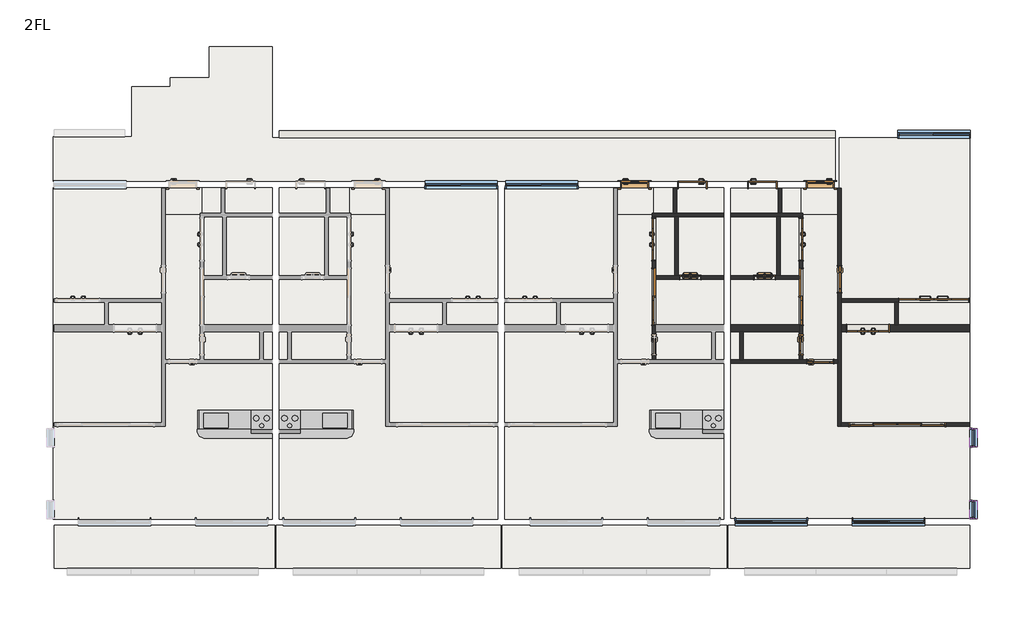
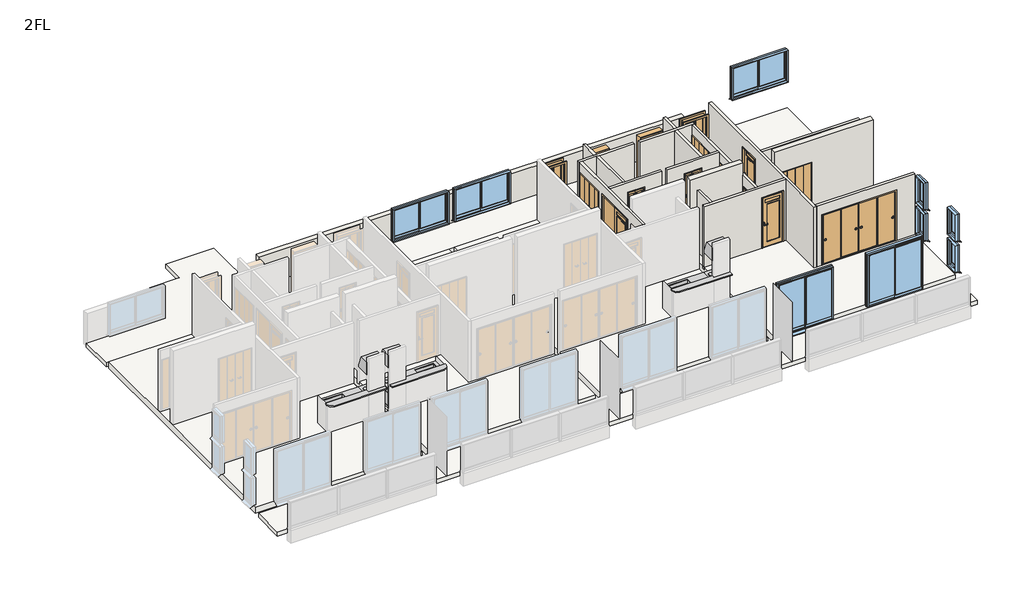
# One storey, part 3 of 3: 19 walls, 16 doors, 14 slabs, 9 windows, 3 flow terminals, 3 furniture elements.
"""IFC4 building model written with IfcOpenShell, lengths in millimetres."""

from ifc_helpers import new_model, si_unit, frame, origin, place, context, project, spatial, polyline, outline, extrude, faceted_brep, transform, mapped, element, save
from components import door_800x2000_a7d1584b, door_800x2000_010bfebf, w1200h2000_6a144d60, w1200h2000_99d19fb3, w1200h2000_ebe1d490, w1600h2000_4c3c234a, w1600h2000_ca690e72, w2000h2000_5dbb6d6a, w2800h2000_04aa64cd, w600h2000_6a266bef, w600h2000_94bb9c3c, w600h2000_8ea70a65, w800h2000_1d97c4d4, w800h2000_0ab7d42c, w800h2000_13e9f519, w800h2000_ccb03061, flow_terminal_5276808d, flow_terminal_b13850ba, furniture_3a0496f9, furniture_dadabe7c, window_2000x1200_fc91d1cf, window_2000x2000_f1ff98da, window_450x1000_1cddc73c

model = new_model("IFC4")

# Units and contexts
model_context = context("Model", 3, world=origin())
ifc_project = project(units=[si_unit("LENGTHUNIT", "METRE", prefix="MILLI")], contexts=[model_context])

# Site, building, storey
site = spatial("IfcSite", under=ifc_project)
building = spatial("IfcBuilding", under=site)
storey = spatial("IfcBuildingStorey", under=building, Name="2FL", Elevation=4000.0)

# Doors
placement = place(None, origin())
door_800x2000_shape = door_800x2000_a7d1584b(model_context)
element("IfcDoor", 1, ObjectType="片開き3 : 800x2000", at=placement, inside=storey, context=model_context, shape_type="MappedRepresentation", body=[
    mapped(door_800x2000_shape, transform((5521.2812754, -5726.3671638, 4000.0), x_axis=(1.0, 0.0, 0.0), y_axis=(0.0, 1.0, 0.0), z_axis=(0.0, 0.0, 1.0))),
])
door_800x2000_2_shape = door_800x2000_010bfebf(model_context)
element("IfcDoor", 2, ObjectType="片開き3 : 800x2000", at=placement, inside=storey, context=model_context, shape_type="MappedRepresentation", body=[
    mapped(door_800x2000_2_shape, transform((10821.2812754, -5726.3671638, 4000.0), x_axis=(-1.0, 0.0, 0.0), y_axis=(0.0, -1.0, 0.0), z_axis=(0.0, 0.0, 1.0))),
])
w1200h2000_shape = w1200h2000_6a144d60(model_context)
element("IfcDoor", 3, ObjectType="木製折戸 : w1200h2000", at=placement, inside=storey, context=model_context, shape_type="MappedRepresentation", body=[
    mapped(w1200h2000_shape, transform((6071.2812754, -7280.1171638, 4100.0), x_axis=(0.0, 1.0, 0.0), y_axis=(-1.0, 0.0, 0.0), z_axis=(0.0, 0.0, 1.0))),
])
w1200h2000_2_shape = w1200h2000_99d19fb3(model_context)
element("IfcDoor", 4, ObjectType="木製折戸 : w1200h2000", at=placement, inside=storey, context=model_context, shape_type="MappedRepresentation", body=[
    mapped(w1200h2000_2_shape, transform((10271.2812754, -7280.1171638, 4100.0), x_axis=(0.0, 1.0, 0.0), y_axis=(-1.0, 0.0, 0.0), z_axis=(0.0, 0.0, 1.0))),
])
w1200h2000_3_shape = w1200h2000_ebe1d490(model_context)
element("IfcDoor", 5, ObjectType="木製折戸 : w1200h2000", at=placement, inside=storey, context=model_context, shape_type="MappedRepresentation", body=[
    mapped(w1200h2000_3_shape, transform((12183.7812754, -9820.1171638, 4100.0), x_axis=(1.0, 0.0, 0.0), y_axis=(0.0, 1.0, 0.0), z_axis=(0.0, 0.0, 1.0))),
])
w1600h2000_shape = w1600h2000_4c3c234a(model_context)
element("IfcDoor", 6, ObjectType="片引戸CL2017 : w1600h2000", at=placement, inside=storey, context=model_context, shape_type="MappedRepresentation", body=[
    mapped(w1600h2000_shape, transform((6071.2812754, -8920.1171638, 4100.0), x_axis=(0.0, -1.0, 0.0), y_axis=(1.0, 0.0, 0.0), z_axis=(0.0, 0.0, 1.0))),
])
w1600h2000_2_shape = w1600h2000_ca690e72(model_context)
element("IfcDoor", 7, ObjectType="片引戸CL2017 : w1600h2000", at=placement, inside=storey, context=model_context, shape_type="MappedRepresentation", body=[
    mapped(w1600h2000_2_shape, transform((10271.2812754, -8920.1171638, 4100.0), x_axis=(0.0, -1.0, 0.0), y_axis=(1.0, 0.0, 0.0), z_axis=(0.0, 0.0, 1.0))),
])
w2000h2000_shape = w2000h2000_5dbb6d6a(model_context)
element("IfcDoor", 8, ObjectType="木製折戸 : w2000h2000", at=placement, inside=storey, context=model_context, shape_type="MappedRepresentation", body=[
    mapped(w2000h2000_shape, transform((14066.2812754, -9020.1171638, 4100.0), x_axis=(-1.0, 0.0, 0.0), y_axis=(0.0, -1.0, 0.0), z_axis=(0.0, 0.0, 1.0))),
])
w2800h2000_shape = w2800h2000_04aa64cd(model_context)
element("IfcDoor", 9, ObjectType="引違い 4 枚 2 溝_襖 : w2800h2000", at=placement, inside=storey, context=model_context, shape_type="MappedRepresentation", body=[
    mapped(w2800h2000_shape, transform((13026.8167793, -12570.1171638, 4100.0), x_axis=(1.0, 0.0, 0.0), y_axis=(0.0, 1.0, 0.0), z_axis=(0.0, 0.0, 1.0))),
])
w600h2000_shape = w600h2000_6a266bef(model_context)
element("IfcDoor", 10, ObjectType="浴室折戸 : w600h2000", at=placement, inside=storey, context=model_context, shape_type="MappedRepresentation", body=[
    mapped(w600h2000_shape, transform((7111.2812754, -8370.1171638, 4100.0), x_axis=(1.0, 0.0, 0.0), y_axis=(0.0, 1.0, 0.0), z_axis=(0.0, 0.0, 1.0))),
])
w600h2000_2_shape = w600h2000_94bb9c3c(model_context)
element("IfcDoor", 11, ObjectType="浴室折戸 : w600h2000", at=placement, inside=storey, context=model_context, shape_type="MappedRepresentation", body=[
    mapped(w600h2000_2_shape, transform((9231.2812754, -8370.1171638, 4100.0), x_axis=(-1.0, 0.0, 0.0), y_axis=(0.0, -1.0, 0.0), z_axis=(0.0, 0.0, 1.0))),
])
w600h2000_3_shape = w600h2000_8ea70a65(model_context)
element("IfcDoor", 12, ObjectType="片開戸CL2058 : w600h2000", at=placement, inside=storey, context=model_context, shape_type="MappedRepresentation", body=[
    mapped(w600h2000_3_shape, transform((10271.2812754, -10295.1171638, 4100.0), x_axis=(0.0, -1.0, 0.0), y_axis=(1.0, 0.0, 0.0), z_axis=(0.0, 0.0, 1.0))),
])
w800h2000_shape = w800h2000_1d97c4d4(model_context)
element("IfcDoor", 13, ObjectType="片開 : w800h2000", at=placement, inside=storey, context=model_context, shape_type="MappedRepresentation", body=[
    mapped(w800h2000_shape, transform((7171.2812754, -5726.3671638, 4000.0), x_axis=(-1.0, 0.0, 0.0), y_axis=(0.0, -1.0, 0.0), z_axis=(0.0, 0.0, 1.0))),
])
w800h2000_2_shape = w800h2000_0ab7d42c(model_context)
element("IfcDoor", 14, ObjectType="片開 : w800h2000", at=placement, inside=storey, context=model_context, shape_type="MappedRepresentation", body=[
    mapped(w800h2000_2_shape, transform((9171.2812754, -5726.3671638, 4000.0), x_axis=(1.0, 0.0, 0.0), y_axis=(0.0, 1.0, 0.0), z_axis=(0.0, 0.0, 1.0))),
])
w800h2000_3_shape = w800h2000_13e9f519(model_context)
element("IfcDoor", 15, ObjectType="片開戸CL2058 : w800h2000", at=placement, inside=storey, context=model_context, shape_type="MappedRepresentation", body=[
    mapped(w800h2000_3_shape, transform((10821.2812754, -10770.1171638, 4100.0), x_axis=(1.0, 0.0, 0.0), y_axis=(0.0, 1.0, 0.0), z_axis=(0.0, 0.0, 1.0))),
])
w800h2000_4_shape = w800h2000_ccb03061(model_context)
element("IfcDoor", 16, ObjectType="片開戸CL2058 : w800h2000", at=placement, inside=storey, context=model_context, shape_type="MappedRepresentation", body=[
    mapped(w800h2000_4_shape, transform((11371.2812754, -8420.1171638, 4100.0), x_axis=(0.0, -1.0, 0.0), y_axis=(1.0, 0.0, 0.0), z_axis=(0.0, 0.0, 1.0))),
])

# Flow terminals
flow_terminal_shape = flow_terminal_5276808d(model_context)
element("IfcFlowTerminal", 17, ObjectType="システムキッチンIH : システムキッチンIH", at=placement, inside=storey, context=model_context, shape_type="MappedRepresentation", body=[
    mapped(flow_terminal_shape, transform((-4828.7187246, -12720.1171638, 4200.0), x_axis=(1.0, 0.0, 0.0), y_axis=(0.0, 1.0, 0.0), z_axis=(0.0, 0.0, 1.0))),
])
element("IfcFlowTerminal", 18, ObjectType="システムキッチンIH : システムキッチンIH", at=placement, inside=storey, context=model_context, shape_type="MappedRepresentation", body=[
    mapped(flow_terminal_shape, transform((8071.2812754, -12720.1171638, 4200.0), x_axis=(1.0, 0.0, 0.0), y_axis=(0.0, 1.0, 0.0), z_axis=(0.0, 0.0, 1.0))),
])
flow_terminal_2_shape = flow_terminal_b13850ba(model_context)
element("IfcFlowTerminal", 19, ObjectType="システムキッチンIH : システムキッチンIH", at=placement, inside=storey, context=model_context, shape_type="MappedRepresentation", body=[
    mapped(flow_terminal_2_shape, transform((-4628.7187246, -12720.1171638, 4200.0), x_axis=(-1.0, 0.0, 0.0), y_axis=(0.0, -1.0, 0.0), z_axis=(0.0, 0.0, 1.0))),
])

# Furniture
furniture_shape = furniture_3a0496f9(model_context)
element("IfcFurniture", 20, ObjectType="キッチンカウンター : キッチンカウンター", at=placement, inside=storey, context=model_context, shape_type="MappedRepresentation", body=[
    mapped(furniture_shape, transform((-4628.7187246, -12820.1171638, 4100.0), x_axis=(-1.0, 0.0, 0.0), y_axis=(0.0, -1.0, 0.0), z_axis=(0.0, 0.0, 1.0))),
])
furniture_2_shape = furniture_dadabe7c(model_context)
element("IfcFurniture", 21, ObjectType="キッチンカウンター : キッチンカウンター", at=placement, inside=storey, context=model_context, shape_type="MappedRepresentation", body=[
    mapped(furniture_2_shape, transform((-4828.7187246, -12820.1171638, 4100.0), x_axis=(1.0, 0.0, 0.0), y_axis=(0.0, 1.0, 0.0), z_axis=(0.0, 0.0, 1.0))),
])
element("IfcFurniture", 22, ObjectType="キッチンカウンター : キッチンカウンター", at=placement, inside=storey, context=model_context, shape_type="MappedRepresentation", body=[
    mapped(furniture_2_shape, transform((8071.2812754, -12820.1171638, 4100.0), x_axis=(1.0, 0.0, 0.0), y_axis=(0.0, 1.0, 0.0), z_axis=(0.0, 0.0, 1.0))),
])

# Slabs
element("IfcSlab", 23, ObjectType="RC150＋100", at=placement, inside=storey, context=model_context, shape_type="SweptSolid", body=[
    extrude(outline(polyline([(-4828.7187246, -15270.1171638), (-11078.7187246, -15270.1171638), (-11078.7187246, -5800.1171638), (-7928.7187246, -5800.1171638), (-7928.7187246, -6580.1171638), (-6828.7187246, -6580.1171638), (-6828.7187246, -5800.1171638), (-4828.7187246, -5800.1171638), (-4828.7187246, -6580.1171638), (-6188.7187246, -6580.1171638), (-6188.7187246, -8370.1171638), (-4828.7187246, -8370.1171638), (-4828.7187246, -15270.1171638)])), frame((0.0, 0.0, 3850.0), z_axis=(0.0, 0.0, 1.0), x_axis=(1.0, 0.0, 0.0)), (0.0, 0.0, 1.0), 250.0),
])
element("IfcSlab", 24, ObjectType="RC150＋100", at=placement, inside=storey, context=model_context, shape_type="SweptSolid", body=[
    extrude(outline(polyline([(-4628.7187246, -15270.1171638), (-4628.7187246, -8370.1171638), (-3268.7187246, -8370.1171638), (-3268.7187246, -6580.1171638), (-4628.7187246, -6580.1171638), (-4628.7187246, -5800.1171638), (-2628.7187246, -5800.1171638), (-2628.7187246, -6580.1171638), (-1528.7187246, -6580.1171638), (-1528.7187246, -5800.1171638), (1621.2812754, -5800.1171638), (1621.2812754, -15270.1171638), (-4628.7187246, -15270.1171638)])), frame((0.0, 0.0, 3850.0), z_axis=(0.0, 0.0, 1.0), x_axis=(1.0, 0.0, 0.0)), (0.0, 0.0, 1.0), 250.0),
])
element("IfcSlab", 25, ObjectType="RC150＋100", at=placement, inside=storey, context=model_context, shape_type="SweptSolid", body=[
    extrude(outline(polyline([(8071.2812754, -15270.1171638), (1821.2812754, -15270.1171638), (1821.2812754, -5800.1171638), (4971.2812754, -5800.1171638), (4971.2812754, -6580.1171638), (6071.2812754, -6580.1171638), (6071.2812754, -5800.1171638), (8071.2812754, -5800.1171638), (8071.2812754, -6580.1171638), (6711.2812754, -6580.1171638), (6711.2812754, -8370.1171638), (8071.2812754, -8370.1171638), (8071.2812754, -15270.1171638)])), frame((0.0, 0.0, 3850.0), z_axis=(0.0, 0.0, 1.0), x_axis=(1.0, 0.0, 0.0)), (0.0, 0.0, 1.0), 250.0),
])
element("IfcSlab", 26, ObjectType="RC150＋100", at=placement, inside=storey, context=model_context, shape_type="SweptSolid", body=[
    extrude(outline(polyline([(8271.2812754, -15243.8671638), (8271.2812754, -8370.1171638), (9631.2812754, -8370.1171638), (9631.2812754, -6580.1171638), (8271.2812754, -6580.1171638), (8271.2812754, -5826.3671638), (10271.2812754, -5826.3671638), (10271.2812754, -6580.1171638), (11371.2812754, -6580.1171638), (11371.2812754, -4376.3671638), (15095.0312754, -4376.3671638), (15095.0312754, -15243.8671638), (8271.2812754, -15243.8671638)])), frame((0.0, 0.0, 3850.0), z_axis=(0.0, 0.0, 1.0), x_axis=(1.0, 0.0, 0.0)), (0.0, 0.0, 1.0), 250.0),
])
element("IfcSlab", 27, ObjectType="RC150", at=placement, inside=storey, context=model_context, shape_type="SweptSolid", body=[
    extrude(outline(polyline([(-4828.7187246, -8370.1171638), (-6188.7187246, -8370.1171638), (-6188.7187246, -6580.1171638), (-4828.7187246, -6580.1171638), (-4828.7187246, -8370.1171638)])), frame((0.0, 0.0, 3850.0), z_axis=(0.0, 0.0, 1.0), x_axis=(1.0, 0.0, 0.0)), (0.0, 0.0, 1.0), 150.0),
])
element("IfcSlab", 28, ObjectType="RC150", at=placement, inside=storey, context=model_context, shape_type="SweptSolid", body=[
    extrude(outline(polyline([(-6828.7187246, -6580.1171638), (-7928.7187246, -6580.1171638), (-7928.7187246, -5800.1171638), (-6828.7187246, -5800.1171638), (-6828.7187246, -6580.1171638)])), frame((0.0, 0.0, 3800.0), z_axis=(0.0, 0.0, 1.0), x_axis=(1.0, 0.0, 0.0)), (0.0, 0.0, 1.0), 150.0),
])
element("IfcSlab", 29, ObjectType="RC150", at=placement, inside=storey, context=model_context, shape_type="SweptSolid", body=[
    extrude(outline(polyline([(-4628.7187246, -8370.1171638), (-4628.7187246, -6580.1171638), (-3268.7187246, -6580.1171638), (-3268.7187246, -8370.1171638), (-4628.7187246, -8370.1171638)])), frame((0.0, 0.0, 3850.0), z_axis=(0.0, 0.0, 1.0), x_axis=(1.0, 0.0, 0.0)), (0.0, 0.0, 1.0), 150.0),
])
element("IfcSlab", 30, ObjectType="RC150", at=placement, inside=storey, context=model_context, shape_type="SweptSolid", body=[
    extrude(outline(polyline([(-2628.7187246, -6580.1171638), (-2628.7187246, -5800.1171638), (-1528.7187246, -5800.1171638), (-1528.7187246, -6580.1171638), (-2628.7187246, -6580.1171638)])), frame((0.0, 0.0, 3800.0), z_axis=(0.0, 0.0, 1.0), x_axis=(1.0, 0.0, 0.0)), (0.0, 0.0, 1.0), 150.0),
])
element("IfcSlab", 31, ObjectType="RC150", at=placement, inside=storey, context=model_context, shape_type="SweptSolid", body=[
    extrude(outline(polyline([(8071.2812754, -8370.1171638), (6711.2812754, -8370.1171638), (6711.2812754, -6580.1171638), (8071.2812754, -6580.1171638), (8071.2812754, -8370.1171638)])), frame((0.0, 0.0, 3850.0), z_axis=(0.0, 0.0, 1.0), x_axis=(1.0, 0.0, 0.0)), (0.0, 0.0, 1.0), 150.0),
])
element("IfcSlab", 32, ObjectType="RC150", at=placement, inside=storey, context=model_context, shape_type="SweptSolid", body=[
    extrude(outline(polyline([(6071.2812754, -6580.1171638), (4971.2812754, -6580.1171638), (4971.2812754, -5800.1171638), (6071.2812754, -5800.1171638), (6071.2812754, -6580.1171638)])), frame((0.0, 0.0, 3800.0), z_axis=(0.0, 0.0, 1.0), x_axis=(1.0, 0.0, 0.0)), (0.0, 0.0, 1.0), 150.0),
])
element("IfcSlab", 33, ObjectType="RC150", at=placement, inside=storey, context=model_context, shape_type="SweptSolid", body=[
    extrude(outline(polyline([(8271.2812754, -8370.1171638), (8271.2812754, -6580.1171638), (9631.2812754, -6580.1171638), (9631.2812754, -8370.1171638), (8271.2812754, -8370.1171638)])), frame((0.0, 0.0, 3850.0), z_axis=(0.0, 0.0, 1.0), x_axis=(1.0, 0.0, 0.0)), (0.0, 0.0, 1.0), 150.0),
])
element("IfcSlab", 34, ObjectType="RC150", at=placement, inside=storey, context=model_context, shape_type="SweptSolid", body=[
    extrude(outline(polyline([(10271.2812754, -6580.1171638), (10271.2812754, -5826.3671638), (11371.2812754, -5826.3671638), (11371.2812754, -6580.1171638), (10271.2812754, -6580.1171638)])), frame((0.0, 0.0, 3800.0), z_axis=(0.0, 0.0, 1.0), x_axis=(1.0, 0.0, 0.0)), (0.0, 0.0, 1.0), 150.0),
])
element("IfcSlab", 35, ObjectType="RC150", at=placement, inside=storey, context=model_context, shape_type="SweptSolid", body=[
    extrude(outline(polyline([(-8828.7187246, -4350.1171638), (-8828.7187246, -2920.1171638), (-7728.7187246, -2920.1171638), (-7728.7187246, -2660.1171638), (-6628.7187246, -2660.1171638), (-6628.7187246, -1775.1171638), (-4828.7187246, -1775.1171638), (-4828.7187246, -4376.3671638), (11247.5312754, -4376.3671638), (11247.5312754, -5626.3671638), (-11078.7187246, -5626.3671638), (-11078.7187246, -4350.1171638), (-8828.7187246, -4350.1171638)])), frame((0.0, 0.0, 3800.0), z_axis=(0.0, 0.0, 1.0), x_axis=(1.0, 0.0, 0.0)), (0.0, 0.0, 1.0), 150.0),
])
element("IfcSlab", 36, ObjectType="RC150", at=placement, inside=storey, context=model_context, shape_type="SweptSolid", body=[
    extrude(outline(polyline([(15095.0312754, -15443.8671638), (15095.0312754, -16670.1171638), (-11052.4687246, -16670.1171638), (-11052.4687246, -15443.8671638), (15095.0312754, -15443.8671638)])), frame((0.0, 0.0, 3800.0), z_axis=(0.0, 0.0, 1.0), x_axis=(1.0, 0.0, 0.0)), (0.0, 0.0, 1.0), 150.0),
])

# Walls
element("IfcWall", 37, ObjectType="(R)RC200", at=placement, inside=storey, context=model_context, shape_type="Brep", body=[
    faceted_brep([(15095.0312754, -9720.1171638, 4000.0), (13046.2812754, -9720.1171638, 4000.0), (12946.2812754, -9720.1171638, 4000.0), (11421.2812754, -9720.1171638, 4000.0), (11421.2812754, -9720.1171638, 7000.0), (15095.0312754, -9720.1171638, 7000.0), (12803.7812754, -9720.1171638, 6120.0), (11563.7812754, -9720.1171638, 6120.0), (11563.7812754, -9720.1171638, 4100.0), (12803.7812754, -9720.1171638, 4100.0), (15095.0312754, -9920.1171638, 4000.0), (15095.0312754, -9920.1171638, 7000.0), (11421.2812754, -9920.1171638, 7000.0), (11421.2812754, -9920.1171638, 4000.0), (12803.7812754, -9920.1171638, 6120.0), (12803.7812754, -9920.1171638, 4100.0), (11563.7812754, -9920.1171638, 4100.0), (11563.7812754, -9920.1171638, 6120.0)], [[[0, 1, 2, 3, 4, 5], [6, 7, 8, 9]], [[10, 11, 12, 13], [14, 15, 16, 17]], [[3, 2, 1, 0, 10, 13]], [[5, 4, 12, 11]], [[4, 3, 13, 12]], [[15, 14, 6, 9]], [[16, 15, 9, 8]], [[17, 16, 8, 7]], [[14, 17, 7, 6]], [[0, 5, 11, 10]]]),
])
element("IfcWall", 38, ObjectType="(R)RC200", at=placement, inside=storey, context=model_context, shape_type="Brep", body=[
    faceted_brep([(10221.2812754, -9720.1171638, 4000.0), (8271.2812754, -9720.1171638, 4000.0), (8271.2812754, -9720.1171638, 7000.0), (10221.2812754, -9720.1171638, 7000.0), (10221.2812754, -9920.1171638, 4000.0), (10221.2812754, -9920.1171638, 7000.0), (8271.2812754, -9920.1171638, 7000.0), (8271.2812754, -9920.1171638, 4000.0), (8521.2812754, -9920.1171638, 4000.0), (8621.2812754, -9920.1171638, 4000.0)], [[[0, 1, 2, 3]], [[4, 5, 6, 7, 8, 9]], [[1, 0, 4, 9, 8, 7]], [[3, 2, 6, 5]], [[0, 3, 5, 4]], [[2, 1, 7, 6]]]),
])
element("IfcWall", 39, ObjectType="(R)RC200", at=placement, inside=storey, context=model_context, shape_type="Brep", body=[
    faceted_brep([(-4628.7187246, -4376.3671638, 5100.0), (-4628.7187246, -4376.3671638, 3800.0), (-1628.7187246, -4376.3671638, 3800.0), (11247.5312754, -4376.3671638, 3800.0), (11247.5312754, -4376.3671638, 5100.0), (-4628.7187246, -4176.3671638, 3800.0), (-4628.7187246, -4176.3671638, 5100.0), (11247.5312754, -4176.3671638, 5100.0), (11247.5312754, -4176.3671638, 3800.0), (-1628.7187246, -4176.3671638, 3800.0)], [[[0, 1, 2, 3, 4]], [[5, 6, 7, 8, 9]], [[3, 2, 1, 5, 9, 8]], [[0, 4, 7, 6]], [[4, 3, 8, 7]], [[0, 6, 5, 1]]]),
])
element("IfcWall", 40, ObjectType="(L1)LGS100", at=placement, inside=storey, context=model_context, shape_type="Brep", body=[
    faceted_brep([(6121.2812754, -8420.1171638, 4000.0), (8071.2812754, -8420.1171638, 4000.0), (8071.2812754, -8420.1171638, 6500.0), (6121.2812754, -8420.1171638, 6500.0), (7431.2812754, -8420.1171638, 6120.0), (7431.2812754, -8420.1171638, 4100.0), (6791.2812754, -8420.1171638, 4100.0), (6791.2812754, -8420.1171638, 6120.0), (6121.2812754, -8320.1171638, 4000.0), (6121.2812754, -8320.1171638, 6500.0), (6661.2812754, -8320.1171638, 6500.0), (6761.2812754, -8320.1171638, 6500.0), (8071.2812754, -8320.1171638, 6500.0), (8071.2812754, -8320.1171638, 4000.0), (6761.2812754, -8320.1171638, 4000.0), (6661.2812754, -8320.1171638, 4000.0), (7431.2812754, -8320.1171638, 6120.0), (6791.2812754, -8320.1171638, 6120.0), (6791.2812754, -8320.1171638, 4100.0), (7431.2812754, -8320.1171638, 4100.0)], [[[0, 1, 2, 3], [4, 5, 6, 7]], [[8, 9, 10, 11, 12, 13, 14, 15], [16, 17, 18, 19]], [[1, 0, 8, 15, 14, 13]], [[3, 2, 12, 11, 10, 9]], [[0, 3, 9, 8]], [[5, 4, 16, 19]], [[6, 5, 19, 18]], [[7, 6, 18, 17]], [[4, 7, 17, 16]], [[2, 1, 13, 12]]]),
])
element("IfcWall", 41, ObjectType="(L1)LGS100", at=placement, inside=storey, context=model_context, shape_type="Brep", body=[
    faceted_brep([(6121.2812754, -10720.1171638, 4000.0), (6121.2812754, -9920.1171638, 4000.0), (6121.2812754, -9720.1171638, 4000.0), (6121.2812754, -8420.1171638, 4000.0), (6121.2812754, -8320.1171638, 4000.0), (6121.2812754, -6630.1171638, 4000.0), (6121.2812754, -6630.1171638, 6500.0), (6121.2812754, -8320.1171638, 6500.0), (6121.2812754, -8420.1171638, 6500.0), (6121.2812754, -10720.1171638, 6500.0), (6121.2812754, -10595.1171638, 4100.0), (6121.2812754, -10595.1171638, 6100.0), (6121.2812754, -9995.1171638, 6100.0), (6121.2812754, -9995.1171638, 4100.0), (6121.2812754, -6660.1171638, 4100.0), (6121.2812754, -7900.1171638, 4100.0), (6121.2812754, -7900.1171638, 6120.0), (6121.2812754, -6660.1171638, 6120.0), (6121.2812754, -9745.1171638, 4100.0), (6121.2812754, -9745.1171638, 6140.0), (6121.2812754, -8095.1171638, 6140.0), (6121.2812754, -8095.1171638, 4100.0), (6021.2812754, -6630.1171638, 4000.0), (6021.2812754, -10720.1171638, 4000.0), (6021.2812754, -10720.1171638, 6500.0), (6021.2812754, -6630.1171638, 6500.0), (6021.2812754, -10595.1171638, 6100.0), (6021.2812754, -10595.1171638, 4100.0), (6021.2812754, -9995.1171638, 4100.0), (6021.2812754, -9995.1171638, 6100.0), (6021.2812754, -7900.1171638, 4100.0), (6021.2812754, -6660.1171638, 4100.0), (6021.2812754, -6660.1171638, 6120.0), (6021.2812754, -7900.1171638, 6120.0), (6021.2812754, -9745.1171638, 4100.0), (6021.2812754, -8095.1171638, 4100.0), (6021.2812754, -8095.1171638, 6140.0), (6021.2812754, -9745.1171638, 6140.0)], [[[0, 1, 2, 3, 4, 5, 6, 7, 8, 9], [10, 11, 12, 13], [14, 15, 16, 17], [18, 19, 20, 21]], [[22, 23, 24, 25], [26, 27, 28, 29], [30, 31, 32, 33], [34, 35, 36, 37]], [[5, 4, 3, 2, 1, 0, 23, 22]], [[9, 8, 7, 6, 25, 24]], [[0, 9, 24, 23]], [[11, 10, 27, 26]], [[12, 11, 26, 29]], [[13, 12, 29, 28]], [[10, 13, 28, 27]], [[14, 31, 30, 15]], [[15, 30, 33, 16]], [[16, 33, 32, 17]], [[19, 18, 34, 37]], [[20, 19, 37, 36]], [[21, 20, 36, 35]], [[18, 21, 35, 34]], [[31, 14, 17, 32]], [[6, 5, 22, 25]]]),
])
element("IfcWall", 42, ObjectType="(L1)LGS100", at=placement, inside=storey, context=model_context, shape_type="Brep", body=[
    faceted_brep([(6021.2812754, -6630.1171638, 4000.0), (6121.2812754, -6630.1171638, 4000.0), (6661.2812754, -6630.1171638, 4000.0), (6761.2812754, -6630.1171638, 4000.0), (8071.2812754, -6630.1171638, 4000.0), (8071.2812754, -6630.1171638, 6500.0), (6761.2812754, -6630.1171638, 6500.0), (6661.2812754, -6630.1171638, 6500.0), (6121.2812754, -6630.1171638, 6500.0), (6021.2812754, -6630.1171638, 6500.0), (6021.2812754, -6530.1171638, 4000.0), (6021.2812754, -6530.1171638, 6500.0), (6621.2812754, -6530.1171638, 6500.0), (6721.2812754, -6530.1171638, 6500.0), (8071.2812754, -6530.1171638, 6500.0), (8071.2812754, -6530.1171638, 4000.0), (6721.2812754, -6530.1171638, 4000.0), (6621.2812754, -6530.1171638, 4000.0)], [[[0, 1, 2, 3, 4, 5, 6, 7, 8, 9]], [[10, 11, 12, 13, 14, 15, 16, 17]], [[4, 3, 2, 1, 0, 10, 17, 16, 15]], [[9, 8, 7, 6, 5, 14, 13, 12, 11]], [[0, 9, 11, 10]], [[5, 4, 15, 14]]]),
])
element("IfcWall", 43, ObjectType="(L1)LGS100", at=placement, inside=storey, context=model_context, shape_type="SweptSolid", body=[
    extrude(outline(polyline([(6721.2812754, -5826.3671638), (6721.2812754, -6530.1171638), (6621.2812754, -6530.1171638), (6621.2812754, -5826.3671638), (6721.2812754, -5826.3671638)])), frame((0.0, 0.0, 4000.0), z_axis=(0.0, 0.0, 1.0), x_axis=(1.0, 0.0, 0.0)), (0.0, 0.0, 1.0), 2500.0),
])
element("IfcWall", 44, ObjectType="(L1)LGS100", at=placement, inside=storey, context=model_context, shape_type="SweptSolid", body=[
    extrude(outline(polyline([(6761.2812754, -6630.1171638), (6761.2812754, -8320.1171638), (6661.2812754, -8320.1171638), (6661.2812754, -6630.1171638), (6761.2812754, -6630.1171638)])), frame((0.0, 0.0, 4000.0), z_axis=(0.0, 0.0, 1.0), x_axis=(1.0, 0.0, 0.0)), (0.0, 0.0, 1.0), 2500.0),
])
element("IfcWall", 45, ObjectType="(L1)LGS100", at=placement, inside=storey, context=model_context, shape_type="Brep", body=[
    faceted_brep([(15095.0312754, -8970.1171638, 4000.0), (11421.2812754, -8970.1171638, 4000.0), (11421.2812754, -8970.1171638, 6500.0), (15095.0312754, -8970.1171638, 6500.0), (13046.2812754, -8970.1171638, 6120.0), (13046.2812754, -8970.1171638, 4100.0), (15086.2812754, -8970.1171638, 4100.0), (15086.2812754, -8970.1171638, 6120.0), (11421.2812754, -9070.1171638, 4000.0), (12946.2812754, -9070.1171638, 4000.0), (13046.2812754, -9070.1171638, 4000.0), (15095.0312754, -9070.1171638, 4000.0), (15095.0312754, -9070.1171638, 6500.0), (13046.2812754, -9070.1171638, 6500.0), (12946.2812754, -9070.1171638, 6500.0), (11421.2812754, -9070.1171638, 6500.0), (13046.2812754, -9070.1171638, 4100.0), (13046.2812754, -9070.1171638, 6120.0), (15086.2812754, -9070.1171638, 6120.0), (15086.2812754, -9070.1171638, 4100.0)], [[[0, 1, 2, 3], [4, 5, 6, 7]], [[8, 9, 10, 11, 12, 13, 14, 15], [16, 17, 18, 19]], [[1, 0, 11, 10, 9, 8]], [[3, 2, 15, 14, 13, 12]], [[2, 1, 8, 15]], [[4, 17, 16, 5]], [[5, 16, 19, 6]], [[17, 4, 7, 18]], [[18, 7, 6, 19]], [[0, 3, 12, 11]]]),
])
element("IfcWall", 46, ObjectType="(L1)LGS100", at=placement, inside=storey, context=model_context, shape_type="Brep", body=[
    faceted_brep([(13046.2812754, -9720.1171638, 4000.0), (13046.2812754, -9070.1171638, 4000.0), (13046.2812754, -9070.1171638, 4100.0), (13046.2812754, -9070.1171638, 6120.0), (13046.2812754, -9070.1171638, 6500.0), (13046.2812754, -9720.1171638, 6500.0), (12946.2812754, -9720.1171638, 4000.0), (12946.2812754, -9720.1171638, 6500.0), (12946.2812754, -9070.1171638, 6500.0), (12946.2812754, -9070.1171638, 4000.0)], [[[0, 1, 2, 3, 4, 5]], [[6, 7, 8, 9]], [[1, 0, 6, 9]], [[5, 4, 8, 7]], [[0, 5, 7, 6]], [[4, 3, 2, 1, 9, 8]]]),
])
element("IfcWall", 47, ObjectType="(L1)LGS100", at=placement, inside=storey, context=model_context, shape_type="Brep", body=[
    faceted_brep([(11421.2812754, -12620.1171638, 4000.0), (11421.2812754, -12520.1171638, 4000.0), (11421.2812754, -9920.1171638, 4000.0), (11421.2812754, -9720.1171638, 4000.0), (11421.2812754, -9070.1171638, 4000.0), (11421.2812754, -8970.1171638, 4000.0), (11421.2812754, -5826.3671638, 4000.0), (11421.2812754, -5826.3671638, 6500.0), (11421.2812754, -8970.1171638, 6500.0), (11421.2812754, -9070.1171638, 6500.0), (11421.2812754, -12520.1171638, 6500.0), (11421.2812754, -12620.1171638, 6500.0), (11421.2812754, -8820.1171638, 4100.0), (11421.2812754, -8820.1171638, 6100.0), (11421.2812754, -8020.1171638, 6100.0), (11421.2812754, -8020.1171638, 4100.0), (11321.2812754, -12620.1171638, 4000.0), (11321.2812754, -12620.1171638, 6500.0), (11321.2812754, -10820.1171638, 6500.0), (11321.2812754, -10720.1171638, 6500.0), (11321.2812754, -5826.3671638, 6500.0), (11321.2812754, -5826.3671638, 4000.0), (11321.2812754, -10720.1171638, 4000.0), (11321.2812754, -10820.1171638, 4000.0), (11321.2812754, -8820.1171638, 4100.0), (11321.2812754, -8020.1171638, 4100.0), (11321.2812754, -8020.1171638, 6100.0), (11321.2812754, -8820.1171638, 6100.0)], [[[0, 1, 2, 3, 4, 5, 6, 7, 8, 9, 10, 11], [12, 13, 14, 15]], [[16, 17, 18, 19, 20, 21, 22, 23], [24, 25, 26, 27]], [[6, 5, 4, 3, 2, 1, 0, 16, 23, 22, 21]], [[11, 10, 9, 8, 7, 20, 19, 18, 17]], [[0, 11, 17, 16]], [[13, 12, 24, 27]], [[14, 13, 27, 26]], [[15, 14, 26, 25]], [[12, 15, 25, 24]], [[7, 6, 21, 20]]]),
])
element("IfcWall", 48, ObjectType="(L1)LGS100", at=placement, inside=storey, context=model_context, shape_type="Brep", body=[
    faceted_brep([(10221.2812754, -8320.1171638, 4000.0), (9681.2812754, -8320.1171638, 4000.0), (9581.2812754, -8320.1171638, 4000.0), (8271.2812754, -8320.1171638, 4000.0), (8271.2812754, -8320.1171638, 6500.0), (9581.2812754, -8320.1171638, 6500.0), (9681.2812754, -8320.1171638, 6500.0), (10221.2812754, -8320.1171638, 6500.0), (8911.2812754, -8320.1171638, 6120.0), (8911.2812754, -8320.1171638, 4100.0), (9551.2812754, -8320.1171638, 4100.0), (9551.2812754, -8320.1171638, 6120.0), (10221.2812754, -8420.1171638, 4000.0), (10221.2812754, -8420.1171638, 6500.0), (8271.2812754, -8420.1171638, 6500.0), (8271.2812754, -8420.1171638, 4000.0), (8911.2812754, -8420.1171638, 6120.0), (9551.2812754, -8420.1171638, 6120.0), (9551.2812754, -8420.1171638, 4100.0), (8911.2812754, -8420.1171638, 4100.0)], [[[0, 1, 2, 3, 4, 5, 6, 7], [8, 9, 10, 11]], [[12, 13, 14, 15], [16, 17, 18, 19]], [[3, 2, 1, 0, 12, 15]], [[7, 6, 5, 4, 14, 13]], [[0, 7, 13, 12]], [[9, 8, 16, 19]], [[10, 9, 19, 18]], [[11, 10, 18, 17]], [[8, 11, 17, 16]], [[4, 3, 15, 14]]]),
])
element("IfcWall", 49, ObjectType="(L1)LGS100", at=placement, inside=storey, context=model_context, shape_type="Brep", body=[
    faceted_brep([(10321.2812754, -10720.1171638, 4000.0), (10321.2812754, -6630.1171638, 4000.0), (10321.2812754, -6630.1171638, 6500.0), (10321.2812754, -10720.1171638, 6500.0), (10321.2812754, -10595.1171638, 4100.0), (10321.2812754, -10595.1171638, 6100.0), (10321.2812754, -9995.1171638, 6100.0), (10321.2812754, -9995.1171638, 4100.0), (10321.2812754, -6660.1171638, 4100.0), (10321.2812754, -7900.1171638, 4100.0), (10321.2812754, -7900.1171638, 6120.0), (10321.2812754, -6660.1171638, 6120.0), (10321.2812754, -9745.1171638, 4100.0), (10321.2812754, -9745.1171638, 6140.0), (10321.2812754, -8095.1171638, 6140.0), (10321.2812754, -8095.1171638, 4100.0), (10221.2812754, -6630.1171638, 4000.0), (10221.2812754, -8320.1171638, 4000.0), (10221.2812754, -8420.1171638, 4000.0), (10221.2812754, -9720.1171638, 4000.0), (10221.2812754, -9920.1171638, 4000.0), (10221.2812754, -10720.1171638, 4000.0), (10221.2812754, -10720.1171638, 6500.0), (10221.2812754, -8420.1171638, 6500.0), (10221.2812754, -8320.1171638, 6500.0), (10221.2812754, -6630.1171638, 6500.0), (10221.2812754, -10595.1171638, 6100.0), (10221.2812754, -10595.1171638, 4100.0), (10221.2812754, -9995.1171638, 4100.0), (10221.2812754, -9995.1171638, 6100.0), (10221.2812754, -7900.1171638, 4100.0), (10221.2812754, -6660.1171638, 4100.0), (10221.2812754, -6660.1171638, 6120.0), (10221.2812754, -7900.1171638, 6120.0), (10221.2812754, -9745.1171638, 4100.0), (10221.2812754, -8095.1171638, 4100.0), (10221.2812754, -8095.1171638, 6140.0), (10221.2812754, -9745.1171638, 6140.0)], [[[0, 1, 2, 3], [4, 5, 6, 7], [8, 9, 10, 11], [12, 13, 14, 15]], [[16, 17, 18, 19, 20, 21, 22, 23, 24, 25], [26, 27, 28, 29], [30, 31, 32, 33], [34, 35, 36, 37]], [[1, 0, 21, 20, 19, 18, 17, 16]], [[3, 2, 25, 24, 23, 22]], [[0, 3, 22, 21]], [[2, 1, 16, 25]], [[5, 4, 27, 26]], [[6, 5, 26, 29]], [[7, 6, 29, 28]], [[4, 7, 28, 27]], [[8, 31, 30, 9]], [[9, 30, 33, 10]], [[10, 33, 32, 11]], [[13, 12, 34, 37]], [[14, 13, 37, 36]], [[15, 14, 36, 35]], [[12, 15, 35, 34]], [[31, 8, 11, 32]]]),
])
element("IfcWall", 50, ObjectType="(L1)LGS100", at=placement, inside=storey, context=model_context, shape_type="Brep", body=[
    faceted_brep([(10321.2812754, -6530.1171638, 4000.0), (9721.2812754, -6530.1171638, 4000.0), (9621.2812754, -6530.1171638, 4000.0), (8271.2812754, -6530.1171638, 4000.0), (8271.2812754, -6530.1171638, 6500.0), (9621.2812754, -6530.1171638, 6500.0), (9721.2812754, -6530.1171638, 6500.0), (10321.2812754, -6530.1171638, 6500.0), (10321.2812754, -6630.1171638, 4000.0), (10321.2812754, -6630.1171638, 6500.0), (10221.2812754, -6630.1171638, 6500.0), (9681.2812754, -6630.1171638, 6500.0), (9581.2812754, -6630.1171638, 6500.0), (8271.2812754, -6630.1171638, 6500.0), (8271.2812754, -6630.1171638, 4000.0), (9581.2812754, -6630.1171638, 4000.0), (9681.2812754, -6630.1171638, 4000.0), (10221.2812754, -6630.1171638, 4000.0)], [[[0, 1, 2, 3, 4, 5, 6, 7]], [[8, 9, 10, 11, 12, 13, 14, 15, 16, 17]], [[3, 2, 1, 0, 8, 17, 16, 15, 14]], [[7, 6, 5, 4, 13, 12, 11, 10, 9]], [[0, 7, 9, 8]], [[4, 3, 14, 13]]]),
])
element("IfcWall", 51, ObjectType="(L1)LGS100", at=placement, inside=storey, context=model_context, shape_type="SweptSolid", body=[
    extrude(outline(polyline([(9721.2812754, -5826.3671638), (9721.2812754, -6530.1171638), (9621.2812754, -6530.1171638), (9621.2812754, -5826.3671638), (9721.2812754, -5826.3671638)])), frame((0.0, 0.0, 4000.0), z_axis=(0.0, 0.0, 1.0), x_axis=(1.0, 0.0, 0.0)), (0.0, 0.0, 1.0), 2500.0),
])
element("IfcWall", 52, ObjectType="(L1)LGS100", at=placement, inside=storey, context=model_context, shape_type="SweptSolid", body=[
    extrude(outline(polyline([(9681.2812754, -6630.1171638), (9681.2812754, -8320.1171638), (9581.2812754, -8320.1171638), (9581.2812754, -6630.1171638), (9681.2812754, -6630.1171638)])), frame((0.0, 0.0, 4000.0), z_axis=(0.0, 0.0, 1.0), x_axis=(1.0, 0.0, 0.0)), (0.0, 0.0, 1.0), 2500.0),
])
element("IfcWall", 53, ObjectType="(L1)LGS100", at=placement, inside=storey, context=model_context, shape_type="SweptSolid", body=[
    extrude(outline(polyline([(8621.2812754, -9920.1171638), (8621.2812754, -10720.1171638), (8521.2812754, -10720.1171638), (8521.2812754, -9920.1171638), (8621.2812754, -9920.1171638)])), frame((0.0, 0.0, 4000.0), z_axis=(0.0, 0.0, 1.0), x_axis=(1.0, 0.0, 0.0)), (0.0, 0.0, 1.0), 2500.0),
])
element("IfcWall", 54, ObjectType="(L1)LGS100", at=placement, inside=storey, context=model_context, shape_type="Brep", body=[
    faceted_brep([(11321.2812754, -10720.1171638, 4000.0), (10321.2812754, -10720.1171638, 4000.0), (10221.2812754, -10720.1171638, 4000.0), (8621.2812754, -10720.1171638, 4000.0), (8521.2812754, -10720.1171638, 4000.0), (8271.2812754, -10720.1171638, 4000.0), (8271.2812754, -10720.1171638, 6500.0), (8521.2812754, -10720.1171638, 6500.0), (8621.2812754, -10720.1171638, 6500.0), (10221.2812754, -10720.1171638, 6500.0), (10321.2812754, -10720.1171638, 6500.0), (11321.2812754, -10720.1171638, 6500.0), (11221.2812754, -10720.1171638, 4100.0), (11221.2812754, -10720.1171638, 6100.0), (10421.2812754, -10720.1171638, 6100.0), (10421.2812754, -10720.1171638, 4100.0), (8271.2812754, -10820.1171638, 4000.0), (11321.2812754, -10820.1171638, 4000.0), (11321.2812754, -10820.1171638, 6500.0), (8271.2812754, -10820.1171638, 6500.0), (11221.2812754, -10820.1171638, 6100.0), (11221.2812754, -10820.1171638, 4100.0), (10421.2812754, -10820.1171638, 4100.0), (10421.2812754, -10820.1171638, 6100.0)], [[[0, 1, 2, 3, 4, 5, 6, 7, 8, 9, 10, 11], [12, 13, 14, 15]], [[16, 17, 18, 19], [20, 21, 22, 23]], [[5, 4, 3, 2, 1, 0, 17, 16]], [[11, 10, 9, 8, 7, 6, 19, 18]], [[0, 11, 18, 17]], [[12, 21, 20, 13]], [[13, 20, 23, 14]], [[14, 23, 22, 15]], [[21, 12, 15, 22]], [[6, 5, 16, 19]]]),
])
element("IfcWall", 55, ObjectType="(L1)LGS100", at=placement, inside=storey, context=model_context, shape_type="SweptSolid", body=[
    extrude(outline(polyline([(4000.0, 15095.0312754), (6500.0, 15095.0312754), (6500.0, 11421.2812754), (4000.0, 11421.2812754), (4000.0, 15095.0312754)]), holes=[polyline([(6100.0, 14421.2812754), (4100.0, 14421.2812754), (4100.0, 11621.2812754), (6100.0, 11621.2812754), (6100.0, 14421.2812754)])]), frame((0.0, -12620.1171638, 0.0), z_axis=(0.0, 1.0, 0.0), x_axis=(0.0, 0.0, 1.0)), (0.0, 0.0, 1.0), 100.0),
])

# Windows
window_2000x1200_shape = window_2000x1200_fc91d1cf(model_context)
element("IfcWindow", 56, ObjectType="鋼製_一般枠_引違い-二枚 : 2000x1200", at=placement, inside=storey, context=model_context, shape_type="MappedRepresentation", body=[
    mapped(window_2000x1200_shape, transform((571.2812754, -5726.3671638, 4250.0), x_axis=(1.0, 0.0, 0.0), y_axis=(0.0, 1.0, 0.0), z_axis=(0.0, 0.0, 1.0))),
])
element("IfcWindow", 57, ObjectType="鋼製_一般枠_引違い-二枚 : 2000x1200", at=placement, inside=storey, context=model_context, shape_type="MappedRepresentation", body=[
    mapped(window_2000x1200_shape, transform((2871.2812754, -5726.3671638, 4250.0), x_axis=(1.0, 0.0, 0.0), y_axis=(0.0, 1.0, 0.0), z_axis=(0.0, 0.0, 1.0))),
])
element("IfcWindow", 58, ObjectType="鋼製_一般枠_引違い-二枚 : 2000x1200", at=placement, inside=storey, context=model_context, shape_type="MappedRepresentation", body=[
    mapped(window_2000x1200_shape, transform((14071.2812754, -4276.3671638, 4250.0), x_axis=(1.0, 0.0, 0.0), y_axis=(0.0, 1.0, 0.0), z_axis=(0.0, 0.0, 1.0))),
])
window_2000x2000_shape = window_2000x2000_f1ff98da(model_context)
element("IfcWindow", 59, ObjectType="鋼製_一般枠_引違い-二枚 : 2000x2000", at=placement, inside=storey, context=model_context, shape_type="MappedRepresentation", body=[
    mapped(window_2000x2000_shape, transform((12771.2812754, -15343.8671638, 3200.0), x_axis=(-1.0, 0.0, 0.0), y_axis=(0.0, -1.0, 0.0), z_axis=(0.0, 0.0, 1.0))),
])
element("IfcWindow", 60, ObjectType="鋼製_一般枠_引違い-二枚 : 2000x2000", at=placement, inside=storey, context=model_context, shape_type="MappedRepresentation", body=[
    mapped(window_2000x2000_shape, transform((9421.2812754, -15343.8671638, 3200.0), x_axis=(-1.0, 0.0, 0.0), y_axis=(0.0, -1.0, 0.0), z_axis=(0.0, 0.0, 1.0))),
])
window_450x1000_shape = window_450x1000_1cddc73c(model_context)
element("IfcWindow", 61, ObjectType="鋼製_一般枠_嵌殺し : 450x1000", at=placement, inside=storey, context=model_context, shape_type="MappedRepresentation", body=[
    mapped(window_450x1000_shape, transform((15195.0312754, -14995.1171638, 3010.0), x_axis=(0.0, 1.0, 0.0), y_axis=(-1.0, 0.0, 0.0), z_axis=(0.0, 0.0, 1.0))),
])
element("IfcWindow", 62, ObjectType="鋼製_一般枠_嵌殺し : 450x1000", at=placement, inside=storey, context=model_context, shape_type="MappedRepresentation", body=[
    mapped(window_450x1000_shape, transform((15195.0312754, -12945.1171638, 3010.0), x_axis=(0.0, 1.0, 0.0), y_axis=(-1.0, 0.0, 0.0), z_axis=(0.0, 0.0, 1.0))),
])
element("IfcWindow", 63, ObjectType="鋼製_一般枠_嵌殺し : 450x1000", at=placement, inside=storey, context=model_context, shape_type="MappedRepresentation", body=[
    mapped(window_450x1000_shape, transform((15195.0312754, -14995.1171638, 4230.0), x_axis=(0.0, 1.0, 0.0), y_axis=(-1.0, 0.0, 0.0), z_axis=(0.0, 0.0, 1.0))),
])
element("IfcWindow", 64, ObjectType="鋼製_一般枠_嵌殺し : 450x1000", at=placement, inside=storey, context=model_context, shape_type="MappedRepresentation", body=[
    mapped(window_450x1000_shape, transform((15195.0312754, -12945.1171638, 4230.0), x_axis=(0.0, 1.0, 0.0), y_axis=(-1.0, 0.0, 0.0), z_axis=(0.0, 0.0, 1.0))),
])

save(model, "model.ifc")
